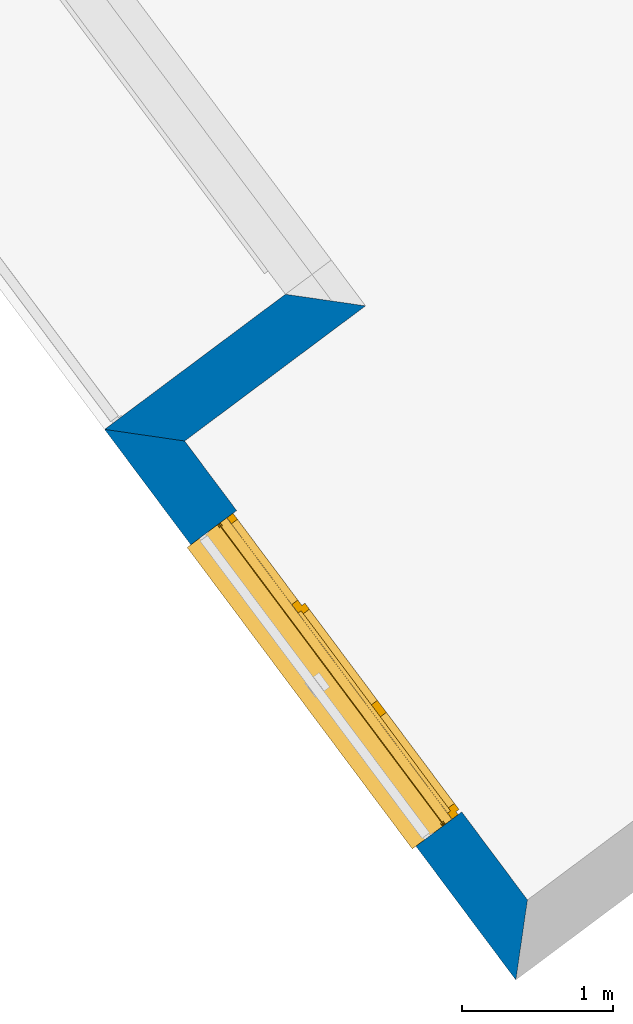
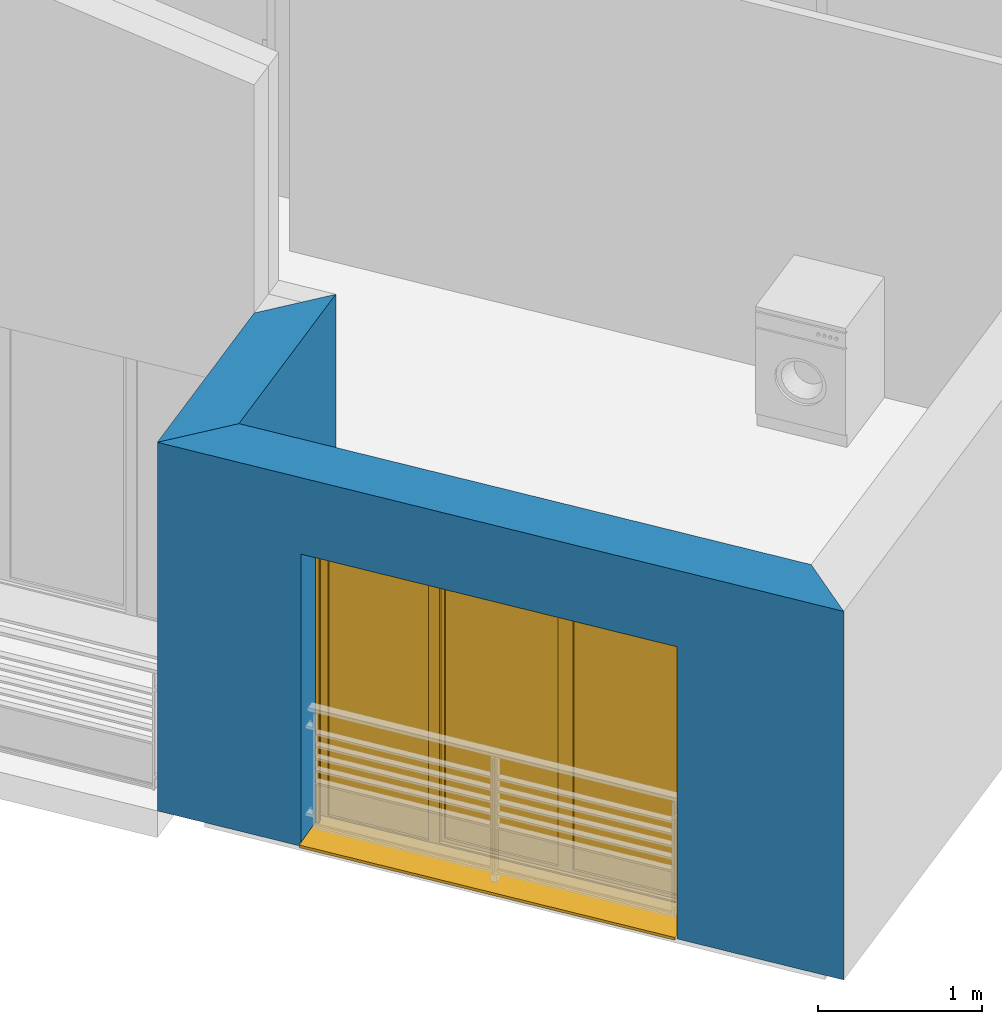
# One storey, part 3 of 121: 2 walls, 1 window, 1 opening.
"""IFC2X3 building model written with IfcOpenShell, lengths in metres."""

from ifc_helpers import new_model, entity, si_unit, converted_unit, derived_unit, money_unit, direction, frame, origin_with_axes, place, context, subcontext, project, spatial, polyline, outline, extrude, open_shell, faceted_brep, surface_model, source, transform, mapped, material, layer, layer_set, layer_usage, type_object, element, fill, save


model = new_model("IFC2X3")

# Units and contexts
model_context = context("Model", 3, precision=1e-05, world=origin_with_axes(), true_north=direction((0.0, 1.0)))
body_context = subcontext(model_context, "Body", "Model", "MODEL_VIEW")
ifc_project = project(units=[si_unit("LENGTHUNIT", "METRE"), si_unit("AREAUNIT", "SQUARE_METRE"), si_unit("VOLUMEUNIT", "CUBIC_METRE"), converted_unit("PLANEANGLEUNIT", "DEGREE", entity("IfcPlaneAngleMeasure", 0.0174532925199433), si_unit("PLANEANGLEUNIT", "RADIAN"), dimensions=[0, 0, 0, 0, 0, 0, 0]), money_unit("CHF"), converted_unit("TIMEUNIT", "Year", entity("IfcTimeMeasure", 31557600.0), si_unit("TIMEUNIT", "SECOND"), dimensions=[0, 0, 1, 0, 0, 0, 0]), si_unit("MASSUNIT", "GRAM", prefix="KILO"), si_unit("THERMODYNAMICTEMPERATUREUNIT", "DEGREE_CELSIUS"), si_unit("LUMINOUSINTENSITYUNIT", "LUMEN"), si_unit("ENERGYUNIT", "JOULE", prefix="MEGA"), derived_unit("THERMALCONDUCTANCEUNIT", [(si_unit("POWERUNIT", "WATT"), 1), (si_unit("LENGTHUNIT", "METRE"), -1), (si_unit("THERMODYNAMICTEMPERATUREUNIT", "KELVIN"), -1)]), derived_unit("SPECIFICHEATCAPACITYUNIT", [(si_unit("ENERGYUNIT", "JOULE"), 1), (si_unit("MASSUNIT", "GRAM", prefix="KILO"), -1), (si_unit("THERMODYNAMICTEMPERATUREUNIT", "KELVIN"), -1)]), derived_unit("MASSDENSITYUNIT", [(si_unit("MASSUNIT", "GRAM", prefix="KILO"), 1), (si_unit("VOLUMEUNIT", "CUBIC_METRE"), -1)])], contexts=[model_context])

# Site, building, storey
site_placement = place(None, origin_with_axes())
site = spatial("IfcSite", under=ifc_project, at=site_placement, Name="Site", CompositionType="ELEMENT")
building_placement = place(site_placement, origin_with_axes())
building = spatial("IfcBuilding", under=site, at=building_placement, Name="Bâtiment", CompositionType="ELEMENT")
storey_placement = place(building_placement, frame((0.0, 0.0, 2.75), z_axis=(0.0, 0.0, 1.0), x_axis=(1.0, 0.0, 0.0)))
storey = spatial("IfcBuildingStorey", under=building, at=storey_placement, Name="Etage 1", CompositionType="ELEMENT", Elevation=2.75)

# Wall, opening, window
ifc_material_1 = material(Name="Parpaing 312445824")
ifc_layer_1 = layer(ifc_material_1, 0.22, ventilated="UNKNOWN")
ifc_material_2 = material(Name="Isolant styromousse 301821074")
ifc_layer_2 = layer(ifc_material_2, 0.16, ventilated="UNKNOWN")
ifc_layer_set = layer_set([ifc_layer_1, ifc_layer_2], Name="isol int 22+16 0836643197")
ifc_layer_usage_1 = layer_usage(ifc_layer_set, "AXIS2", "POSITIVE", 0.0)
wall_type = type_object("IfcWallType", Name="isol int 22+16 0836643197 380", PredefinedType="NOTDEFINED")
wall_1_placement = place(storey_placement, frame((9532.907405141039, -1085.373837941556, 57.7), z_axis=(0.0, 0.0, 1.0), x_axis=(0.5984464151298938, -0.8011628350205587, 0.0)))
wall_1 = element("IfcWallStandardCase", 1, at=wall_1_placement, inside=storey, type_object=wall_type, material=ifc_layer_usage_1, Name="Mur-115", context=body_context, shape_type="SweptSolid", body=[
    extrude(outline(polyline([(0.0, 0.0), (4.566222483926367, 0.0), (4.186222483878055, 0.3799999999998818), (0.3800000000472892, 0.3799999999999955), (0.0, 0.0)])), origin_with_axes(), (0.0, 0.0, 1.0), 2.75),
])
opening_placement = place(wall_1_placement, frame((2.206747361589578, 0.0, 0.0), z_axis=(0.0, 0.0, 1.0), x_axis=(1.0, 0.0, 0.0)))
opening = element("IfcOpeningElement", 2, at=opening_placement, cuts=wall_1, Name="Fen-050", context=body_context, shape_type="Brep", body=[
    faceted_brep([(-1.25, 0.4800000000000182, 2.18), (1.25, 0.4800000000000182, 2.18), (1.25, 2.570289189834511, 2.18), (-1.25, 2.570289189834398, 2.18), (-1.25, 0.4800000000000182, 2.380000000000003), (1.25, 0.4800000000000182, 2.380000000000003), (1.25, 0.2999999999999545, 2.18), (1.25, 0.2999999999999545, 0.0), (1.25, 2.570289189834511, 0.0), (-1.25, 2.570289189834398, 0.0), (-1.25, 0.2999999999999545, 2.18), (-1.25, 0.2999999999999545, 0.0), (-1.25, 0.2200000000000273, 2.18), (-1.25, 0.2200000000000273, 2.380000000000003), (1.25, 0.2200000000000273, 2.380000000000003), (1.25, 0.2200000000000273, 2.18), (1.25, -2.190289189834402, 2.18), (1.25, -2.190289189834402, 0.0), (-1.250000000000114, -2.190289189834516, 0.0), (-1.250000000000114, -2.190289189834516, 2.18)], [[[0, 1, 2, 3]], [[1, 0, 4, 5]], [[1, 6, 7, 8, 2]], [[2, 8, 9, 3]], [[10, 0, 3, 9, 11]], [[0, 10, 12, 13, 4]], [[4, 13, 14, 5]], [[6, 1, 5, 14, 15]], [[6, 15, 16, 17, 7]], [[7, 11, 9, 8]], [[12, 10, 11, 18, 19]], [[12, 15, 14, 13]], [[15, 12, 19, 16]], [[19, 18, 17, 16]], [[11, 7, 17, 18]]]),
])
window_style = type_object("IfcWindowStyle", Name="Fenêtre variable 27", ConstructionType="NOTDEFINED", OperationType="TRIPLE_PANEL_VERTICAL", ParameterTakesPrecedence=False, Sizeable=False)
shared_shape = source(origin_with_axes(), body_context, "Body", "SurfaceModel", [
    surface_model("IfcShellBasedSurfaceModel", [(1.25, -0.05100000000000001, 0.05), (-1.25, -0.05100000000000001, 0.05000000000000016), (-1.25, -0.05100000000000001, 0.04000000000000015), (1.25, -0.05100000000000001, 0.04), (-1.25, -0.3799999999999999, 0.02900000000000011), (1.25, -0.3799999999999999, 0.02899999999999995), (-1.25, -0.3799999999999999, 0.009000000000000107), (1.25, -0.3799999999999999, 0.008999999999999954), (-1.25, -0.3699999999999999, 0.01900000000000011), (1.25, -0.3699999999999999, 0.01899999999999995)], [open_shell([[[0, 1, 2, 3]], [[3, 2, 4, 5]], [[5, 4, 6, 7]], [[7, 6, 8, 9]]])]),
    faceted_brep([(1.25, -0.1300000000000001, 2.38), (1.25, 0.1299999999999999, 2.38), (1.247, 0.1299999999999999, 2.38), (1.247, -0.1300000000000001, 2.38), (1.25, -0.1300000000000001, 2.18), (1.25, 0.1299999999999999, 2.18), (1.247, 0.1299999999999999, 2.18), (1.247, -0.1300000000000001, 2.18)], [[[0, 1, 2, 3]], [[0, 4, 5, 1]], [[1, 5, 6, 2]], [[3, 2, 6, 7]], [[4, 0, 3, 7]], [[5, 4, 7, 6]]]),
    faceted_brep([(-1.247, -0.1299999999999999, 2.38), (-1.247, 0.1300000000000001, 2.38), (-1.25, 0.1300000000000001, 2.38), (-1.25, -0.1299999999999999, 2.38), (-1.247, -0.1299999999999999, 2.18), (-1.247, 0.1300000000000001, 2.18), (-1.25, 0.1300000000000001, 2.18), (-1.25, -0.1299999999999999, 2.18)], [[[0, 1, 2, 3]], [[0, 4, 5, 1]], [[1, 5, 6, 2]], [[3, 2, 6, 7]], [[4, 0, 3, 7]], [[5, 4, 7, 6]]]),
    faceted_brep([(1.247, -0.1300000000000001, 2.18), (1.247, -0.1300000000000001, 2.38), (-1.247, -0.1299999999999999, 2.38), (-1.247, -0.1299999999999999, 2.18), (1.247, -0.1270000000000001, 2.18), (1.247, -0.1270000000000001, 2.377), (1.247, 0.1269999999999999, 2.377), (1.247, 0.1269999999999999, 2.183), (1.247, -0.1080000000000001, 2.183), (1.247, -0.1080000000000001, 2.18), (1.247, 0.1299999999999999, 2.18), (1.247, 0.1299999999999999, 2.38), (-1.247, 0.1300000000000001, 2.38), (-1.247, 0.1300000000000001, 2.18), (-1.247, -0.1079999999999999, 2.18), (-1.247, -0.1079999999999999, 2.183), (-1.247, 0.1270000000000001, 2.183), (-1.247, 0.1270000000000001, 2.377), (-1.247, -0.1269999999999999, 2.377), (-1.247, -0.1269999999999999, 2.18)], [[[0, 1, 2, 3]], [[0, 4, 5, 6, 7, 8, 9, 10, 11, 1]], [[1, 11, 12, 2]], [[3, 2, 12, 13, 14, 15, 16, 17, 18, 19]], [[4, 0, 3, 19]], [[5, 4, 19, 18]], [[6, 5, 18, 17]], [[7, 6, 17, 16]], [[8, 7, 16, 15]], [[9, 8, 15, 14]], [[10, 9, 14, 13]], [[11, 10, 13, 12]]]),
    faceted_brep([(1.244, -0.08075423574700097, 2.265760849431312), (1.244, -0.07705479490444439, 2.251954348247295), (1.244, -0.07101408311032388, 2.239), (1.244, -0.06281564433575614, 2.227291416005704), (1.244, -0.05270858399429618, 2.217184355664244), (1.244, -0.04099999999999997, 2.208985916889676), (1.244, -0.02804565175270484, 2.202945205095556), (1.244, -0.01423915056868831, 2.199245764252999), (1.244, 0.0, 2.198), (1.244, 0.01423915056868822, 2.199245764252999), (1.244, 0.02804565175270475, 2.202945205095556), (1.244, 0.0409999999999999, 2.208985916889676), (1.244, 0.05270858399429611, 2.217184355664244), (1.244, 0.06281564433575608, 2.227291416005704), (1.244, 0.07101408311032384, 2.239), (1.244, 0.07705479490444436, 2.251954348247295), (1.244, 0.08075423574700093, 2.265760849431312), (1.244, 0.08199999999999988, 2.28), (1.244, 0.08075423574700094, 2.294239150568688), (1.244, 0.07705479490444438, 2.308045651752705), (1.244, 0.07101408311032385, 2.321), (1.244, 0.0628156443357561, 2.332708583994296), (1.244, 0.05270858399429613, 2.342815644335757), (1.244, 0.04099999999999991, 2.351014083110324), (1.244, 0.02804565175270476, 2.357054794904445), (1.244, 0.01423915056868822, 2.360754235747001), (1.244, 0.0, 2.362), (1.244, -0.01423915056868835, 2.360754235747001), (1.244, -0.0280456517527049, 2.357054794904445), (1.244, -0.04100000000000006, 2.351014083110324), (1.244, -0.05270858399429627, 2.342815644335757), (1.244, -0.06281564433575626, 2.332708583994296), (1.244, -0.07101408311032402, 2.321), (1.244, -0.07705479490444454, 2.308045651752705), (1.244, -0.08075423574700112, 2.294239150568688), (1.244, -0.08200000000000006, 2.28), (-1.244, -0.08075423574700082, 2.265760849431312), (-1.244, -0.07705479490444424, 2.251954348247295), (-1.244, -0.07101408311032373, 2.239), (-1.244, -0.06281564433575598, 2.227291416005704), (-1.244, -0.05270858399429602, 2.217184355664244), (-1.244, -0.04099999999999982, 2.208985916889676), (-1.244, -0.02804565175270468, 2.202945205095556), (-1.244, -0.01423915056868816, 2.199245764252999), (-1.244, 0.0, 2.198), (-1.244, 0.01423915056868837, 2.199245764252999), (-1.244, 0.02804565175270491, 2.202945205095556), (-1.244, 0.04100000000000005, 2.208985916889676), (-1.244, 0.05270858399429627, 2.217184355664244), (-1.244, 0.06281564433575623, 2.227291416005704), (-1.244, 0.07101408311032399, 2.239), (-1.244, 0.07705479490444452, 2.251954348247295), (-1.244, 0.08075423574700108, 2.265760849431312), (-1.244, 0.08200000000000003, 2.28), (-1.244, 0.0807542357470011, 2.294239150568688), (-1.244, 0.07705479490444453, 2.308045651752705), (-1.244, 0.071014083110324, 2.321), (-1.244, 0.06281564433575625, 2.332708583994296), (-1.244, 0.05270858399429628, 2.342815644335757), (-1.244, 0.04100000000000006, 2.351014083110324), (-1.244, 0.02804565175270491, 2.357054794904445), (-1.244, 0.01423915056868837, 2.360754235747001), (-1.244, 0.0, 2.362), (-1.244, -0.0142391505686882, 2.360754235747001), (-1.244, -0.02804565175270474, 2.357054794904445), (-1.244, -0.0409999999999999, 2.351014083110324), (-1.244, -0.05270858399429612, 2.342815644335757), (-1.244, -0.06281564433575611, 2.332708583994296), (-1.244, -0.07101408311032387, 2.321), (-1.244, -0.07705479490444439, 2.308045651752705), (-1.244, -0.08075423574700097, 2.294239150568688), (-1.244, -0.0819999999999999, 2.28)], [[[0, 1, 2, 3, 4, 5, 6, 7, 8, 9, 10, 11, 12, 13, 14, 15, 16, 17, 18, 19, 20, 21, 22, 23, 24, 25, 26, 27, 28, 29, 30, 31, 32, 33, 34, 35]], [[1, 0, 36, 37]], [[2, 1, 37, 38]], [[3, 2, 38, 39]], [[4, 3, 39, 40]], [[5, 4, 40, 41]], [[6, 5, 41, 42]], [[7, 6, 42, 43]], [[8, 7, 43, 44]], [[9, 8, 44, 45]], [[10, 9, 45, 46]], [[11, 10, 46, 47]], [[12, 11, 47, 48]], [[13, 12, 48, 49]], [[14, 13, 49, 50]], [[15, 14, 50, 51]], [[16, 15, 51, 52]], [[17, 16, 52, 53]], [[18, 17, 53, 54]], [[19, 18, 54, 55]], [[20, 19, 55, 56]], [[21, 20, 56, 57]], [[22, 21, 57, 58]], [[23, 22, 58, 59]], [[24, 23, 59, 60]], [[25, 24, 60, 61]], [[26, 25, 61, 62]], [[27, 26, 62, 63]], [[28, 27, 63, 64]], [[29, 28, 64, 65]], [[30, 29, 65, 66]], [[31, 30, 66, 67]], [[32, 31, 67, 68]], [[33, 32, 68, 69]], [[34, 33, 69, 70]], [[35, 34, 70, 71]], [[0, 35, 71, 36]], [[36, 71, 70, 69, 68, 67, 66, 65, 64, 63, 62, 61, 60, 59, 58, 57, 56, 55, 54, 53, 52, 51, 50, 49, 48, 47, 46, 45, 44, 43, 42, 41, 40, 39, 38, 37]]]),
    faceted_brep([(-1.25, -0.105, 0.03), (-1.25, -0.13, 0.03), (-1.25, -0.1299999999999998, 2.18), (-1.25, -0.1049999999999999, 2.18), (-1.225, -0.105, 0.03), (-1.225, -0.108, 0.03), (-1.247, -0.108, 0.03), (-1.247, -0.127, 0.03), (-1.225, -0.127, 0.03), (-1.225, -0.13, 0.03), (-1.225, -0.1299999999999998, 2.18), (-1.225, -0.1269999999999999, 2.18), (-1.247, -0.1269999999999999, 2.18), (-1.247, -0.1079999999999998, 2.18), (-1.225, -0.1079999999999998, 2.18), (-1.225, -0.1049999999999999, 2.18)], [[[0, 1, 2, 3]], [[0, 4, 5, 6, 7, 8, 9, 1]], [[1, 9, 10, 2]], [[3, 2, 10, 11, 12, 13, 14, 15]], [[4, 0, 3, 15]], [[5, 4, 15, 14]], [[6, 5, 14, 13]], [[7, 6, 13, 12]], [[8, 7, 12, 11]], [[9, 8, 11, 10]]]),
    faceted_brep([(1.25, -0.105, 0.03), (1.25, -0.1049999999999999, 2.18), (1.25, -0.1299999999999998, 2.18), (1.25, -0.13, 0.03), (1.225, -0.105, 0.03), (1.225, -0.1049999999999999, 2.18), (1.225, -0.1079999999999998, 2.18), (1.247, -0.1079999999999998, 2.18), (1.247, -0.1269999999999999, 2.18), (1.225, -0.1269999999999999, 2.18), (1.225, -0.1299999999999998, 2.18), (1.225, -0.13, 0.03), (1.225, -0.127, 0.03), (1.247, -0.127, 0.03), (1.247, -0.108, 0.03), (1.225, -0.108, 0.03)], [[[0, 1, 2, 3]], [[4, 5, 1, 0]], [[1, 5, 6, 7, 8, 9, 10, 2]], [[3, 2, 10, 11]], [[0, 3, 11, 12, 13, 14, 15, 4]], [[15, 6, 5, 4]], [[14, 7, 6, 15]], [[13, 8, 7, 14]], [[12, 9, 8, 13]], [[11, 10, 9, 12]]]),
    surface_model("IfcShellBasedSurfaceModel", [(1.247, -0.115, 2.28), (-1.247, -0.1149999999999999, 2.28), (-1.247, -0.1199999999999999, 2.28), (1.247, -0.1200000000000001, 2.28), (1.247, -0.115, 2.28), (1.247, -0.1200000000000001, 2.28), (-1.247, -0.1199999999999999, 2.28), (-1.247, -0.1149999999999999, 2.28)], [open_shell([[[0, 1, 2, 3]], [[4, 5, 6, 7]]])]),
    faceted_brep([(1.247, -0.115, 2.28), (1.247, -0.1166666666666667, 2.263333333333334), (-1.247, -0.1166666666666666, 2.263333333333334), (-1.247, -0.1149999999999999, 2.28), (1.247, -0.1200000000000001, 2.28), (1.247, -0.1216666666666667, 2.263333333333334), (1.247, -0.1216666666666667, 2.246666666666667), (1.247, -0.1200000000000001, 2.23), (1.247, -0.115, 2.23), (1.247, -0.1166666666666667, 2.246666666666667), (-1.247, -0.1166666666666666, 2.246666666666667), (-1.247, -0.1149999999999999, 2.23), (-1.247, -0.1199999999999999, 2.23), (-1.247, -0.1216666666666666, 2.246666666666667), (-1.247, -0.1216666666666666, 2.263333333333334), (-1.247, -0.1199999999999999, 2.28)], [[[0, 1, 2, 3]], [[0, 4, 5, 6, 7, 8, 9, 1]], [[1, 9, 10, 2]], [[3, 2, 10, 11, 12, 13, 14, 15]], [[4, 0, 3, 15]], [[5, 4, 15, 14]], [[6, 5, 14, 13]], [[7, 6, 13, 12]], [[8, 7, 12, 11]], [[9, 8, 11, 10]]]),
    faceted_brep([(1.247, -0.115, 2.23), (1.247, -0.1166666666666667, 2.213333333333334), (-1.247, -0.1166666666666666, 2.213333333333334), (-1.247, -0.1149999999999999, 2.23), (1.247, -0.1200000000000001, 2.23), (1.247, -0.1216666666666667, 2.213333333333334), (1.247, -0.1216666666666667, 2.196666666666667), (1.247, -0.1200000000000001, 2.180000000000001), (1.247, -0.115, 2.180000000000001), (1.247, -0.1166666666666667, 2.196666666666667), (-1.247, -0.1166666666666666, 2.196666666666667), (-1.247, -0.1149999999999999, 2.180000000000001), (-1.247, -0.1199999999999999, 2.180000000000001), (-1.247, -0.1216666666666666, 2.196666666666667), (-1.247, -0.1216666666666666, 2.213333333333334), (-1.247, -0.1199999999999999, 2.23)], [[[0, 1, 2, 3]], [[0, 4, 5, 6, 7, 8, 9, 1]], [[1, 9, 10, 2]], [[3, 2, 10, 11, 12, 13, 14, 15]], [[4, 0, 3, 15]], [[5, 4, 15, 14]], [[6, 5, 14, 13]], [[7, 6, 13, 12]], [[8, 7, 12, 11]], [[9, 8, 11, 10]]]),
    faceted_brep([(1.225, 0.0, 2.13), (1.225, -0.02500000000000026, 2.13), (1.2, -0.02500000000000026, 2.13), (1.2, -0.05000000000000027, 2.13), (1.25, -0.05000000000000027, 2.13), (1.25, 0.0, 2.13), (1.225, 0.0, 0.05000000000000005), (1.225, -0.02500000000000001, 0.05000000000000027), (1.2, -0.02500000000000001, 0.05000000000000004), (1.2, -0.05000000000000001, 0.05000000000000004), (1.25, -0.05000000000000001, 0.05000000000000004), (1.25, 0.0, 0.05000000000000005)], [[[0, 1, 2, 3, 4, 5]], [[1, 0, 6, 7]], [[8, 2, 1, 7]], [[2, 8, 9, 3]], [[4, 3, 9, 10]], [[5, 4, 10, 11]], [[6, 0, 5, 11]], [[7, 6, 11, 10, 9, 8]]]),
    faceted_brep([(-0.4600000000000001, -0.02500000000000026, 2.13), (-0.4850000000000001, -0.02500000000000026, 2.13), (-0.4850000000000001, 0.0, 2.13), (-0.5300000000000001, 0.0, 2.13), (-0.5300000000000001, -0.05000000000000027, 2.13), (-0.4600000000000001, -0.05000000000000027, 2.13), (-0.4600000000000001, -0.02500000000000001, 0.05000000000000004), (-0.4850000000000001, -0.02500000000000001, 0.05000000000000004), (-0.4850000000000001, 0.0, 0.05000000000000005), (-0.5300000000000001, 0.0, 0.05000000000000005), (-0.5300000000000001, -0.05000000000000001, 0.05000000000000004), (-0.4600000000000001, -0.05000000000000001, 0.05000000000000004)], [[[0, 1, 2, 3, 4, 5]], [[1, 0, 6, 7]], [[8, 2, 1, 7]], [[2, 8, 9, 3]], [[9, 10, 4, 3]], [[10, 11, 5, 4]], [[6, 0, 5, 11]], [[7, 6, 11, 10, 9, 8]]]),
    faceted_brep([(-0.4600000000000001, -0.02500000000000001, 0.05000000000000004), (-0.4850000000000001, -0.02500000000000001, 0.05000000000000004), (-0.4850000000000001, 0.0, 0.05000000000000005), (-0.5300000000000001, 0.0, 0.05000000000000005), (-0.5300000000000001, -0.05000000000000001, 0.05000000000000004), (-0.4600000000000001, -0.05000000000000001, 0.05000000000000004), (1.2, -0.02500000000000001, 0.05000000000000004), (1.225, -0.02500000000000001, 0.05000000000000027), (1.225, -0.025, 0.02499999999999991), (-0.4850000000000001, -0.025, 0.02499999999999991), (-0.4850000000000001, 0.0, 0.02499999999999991), (1.225, 0.0, 0.02499999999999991), (1.225, 0.0, 0.05000000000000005), (1.25, 0.0, 0.05000000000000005), (1.25, 0.0, 0.0), (-1.25, 0.0, 0.0), (-1.25, 0.0, 0.05000000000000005), (-1.2, 0.0, 0.05000000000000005), (-1.2, -0.05000000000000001, 0.05000000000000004), (1.25, -0.05000000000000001, 0.05000000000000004), (1.2, -0.05000000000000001, 0.05000000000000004), (-1.25, -0.05000000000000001, 0.05000000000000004), (-1.25, -0.05, 0.0), (1.25, -0.05, 0.0)], [[[0, 1, 2, 3, 4, 5]], [[1, 0, 6, 7, 8, 9]], [[10, 2, 1, 9]], [[11, 12, 13, 14, 15, 16, 17, 3, 2, 10]], [[17, 18, 4, 3]], [[19, 20, 5, 4, 18, 21, 22, 23]], [[6, 0, 5, 20]], [[7, 6, 20, 19, 13, 12]], [[7, 12, 11, 8]], [[11, 10, 9, 8]], [[13, 19, 23, 14]], [[14, 23, 22, 15]], [[15, 22, 21, 16]], [[16, 21, 18, 17]]]),
    faceted_brep([(1.225, 0.0, 2.13), (1.225, 0.0, 2.155), (-0.4850000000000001, 0.0, 2.155), (-0.4850000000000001, 0.0, 2.13), (-0.5300000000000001, 0.0, 2.13), (-1.2, 0.0, 2.13), (-1.25, 0.0, 2.13), (-1.25, 0.0, 2.18), (1.25, 0.0, 2.18), (1.25, 0.0, 2.13), (1.225, -0.02500000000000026, 2.13), (1.225, -0.02500000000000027, 2.155), (-0.4850000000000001, -0.02500000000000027, 2.155), (-0.4850000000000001, -0.02500000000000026, 2.13), (-0.4600000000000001, -0.02500000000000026, 2.13), (-0.4600000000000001, -0.05000000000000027, 2.13), (-0.5300000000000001, -0.05000000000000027, 2.13), (-1.2, -0.05000000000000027, 2.13), (-1.25, -0.05000000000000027, 2.13), (-1.25, -0.05000000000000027, 2.18), (1.25, -0.05000000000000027, 2.18), (1.25, -0.05000000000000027, 2.13), (1.2, -0.05000000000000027, 2.13), (1.2, -0.02500000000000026, 2.13)], [[[0, 1, 2, 3, 4, 5, 6, 7, 8, 9]], [[1, 0, 10, 11]], [[2, 1, 11, 12]], [[3, 2, 12, 13]], [[13, 14, 15, 16, 4, 3]], [[4, 16, 17, 5]], [[5, 17, 18, 6]], [[6, 18, 19, 7]], [[7, 19, 20, 8]], [[8, 20, 21, 9]], [[10, 0, 9, 21, 22, 23]], [[14, 13, 12, 11, 10, 23]], [[14, 23, 22, 15]], [[16, 15, 22, 21, 20, 19, 18, 17]]]),
    faceted_brep([(-1.2, -0.05000000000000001, 0.05), (-1.25, -0.05000000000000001, 0.05), (-1.25, 0.0, 0.05000000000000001), (-1.2, 0.0, 0.05000000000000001), (-1.2, -0.05000000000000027, 2.13), (-1.25, -0.05000000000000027, 2.13), (-1.25, 0.0, 2.13), (-1.2, 0.0, 2.13)], [[[0, 1, 2, 3]], [[0, 4, 5, 1]], [[1, 5, 6, 2]], [[3, 2, 6, 7]], [[4, 0, 3, 7]], [[5, 4, 7, 6]]]),
    faceted_brep([(0.3199999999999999, -0.02500000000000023, 2.105), (0.3699999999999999, -0.02500000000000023, 2.105), (0.3699999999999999, 0.02499999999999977, 2.105), (0.3199999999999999, 0.02499999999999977, 2.105), (0.3199999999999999, -0.02499999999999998, 0.07500000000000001), (0.3699999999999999, -0.02499999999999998, 0.07500000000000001), (0.3699999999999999, 0.02500000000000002, 0.07500000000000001), (0.3199999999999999, 0.02500000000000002, 0.07500000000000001)], [[[0, 1, 2, 3]], [[0, 4, 5, 1]], [[1, 5, 6, 2]], [[3, 2, 6, 7]], [[4, 0, 3, 7]], [[5, 4, 7, 6]]]),
    faceted_brep([(-0.4350000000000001, -0.02500000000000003, 0.07500000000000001), (-0.4850000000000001, -0.02500000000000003, 0.07500000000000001), (-0.4850000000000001, 0.02499999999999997, 0.07500000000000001), (-0.4350000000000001, 0.02499999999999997, 0.07500000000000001), (-0.4350000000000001, -0.02500000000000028, 2.105), (-0.4850000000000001, -0.02500000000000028, 2.105), (-0.4850000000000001, 0.02499999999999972, 2.105), (-0.4350000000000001, 0.02499999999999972, 2.105)], [[[0, 1, 2, 3]], [[0, 4, 5, 1]], [[1, 5, 6, 2]], [[3, 2, 6, 7]], [[4, 0, 3, 7]], [[5, 4, 7, 6]]]),
    faceted_brep([(-0.4850000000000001, -0.02500000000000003, 0.025), (-0.4850000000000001, -0.02500000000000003, 0.07500000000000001), (-0.4850000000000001, 0.02499999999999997, 0.07500000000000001), (-0.4850000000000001, 0.02499999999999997, 0.02500000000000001), (0.3699999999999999, -0.02499999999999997, 0.025), (0.3699999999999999, -0.02499999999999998, 0.07500000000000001), (0.3199999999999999, -0.02499999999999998, 0.07500000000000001), (-0.4350000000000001, -0.02500000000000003, 0.07500000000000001), (-0.4350000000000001, 0.02499999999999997, 0.07500000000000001), (0.3199999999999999, 0.02500000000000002, 0.07500000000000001), (0.3699999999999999, 0.02500000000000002, 0.07500000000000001), (0.3699999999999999, 0.02500000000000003, 0.02500000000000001)], [[[0, 1, 2, 3]], [[0, 4, 5, 6, 7, 1]], [[1, 7, 8, 2]], [[3, 2, 8, 9, 10, 11]], [[4, 0, 3, 11]], [[5, 4, 11, 10]], [[6, 5, 10, 9]], [[7, 6, 9, 8]]]),
    faceted_brep([(0.3699999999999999, -0.02500000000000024, 2.155), (0.3699999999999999, -0.02500000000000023, 2.105), (0.3699999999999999, 0.02499999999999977, 2.105), (0.3699999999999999, 0.02499999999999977, 2.155), (-0.4850000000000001, -0.02500000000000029, 2.155), (-0.4850000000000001, -0.02500000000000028, 2.105), (-0.4350000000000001, -0.02500000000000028, 2.105), (0.3199999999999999, -0.02500000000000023, 2.105), (0.3199999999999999, 0.02499999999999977, 2.105), (-0.4350000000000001, 0.02499999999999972, 2.105), (-0.4850000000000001, 0.02499999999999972, 2.105), (-0.4850000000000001, 0.02499999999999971, 2.155)], [[[0, 1, 2, 3]], [[0, 4, 5, 6, 7, 1]], [[1, 7, 8, 2]], [[3, 2, 8, 9, 10, 11]], [[4, 0, 3, 11]], [[5, 4, 11, 10]], [[6, 5, 10, 9]], [[7, 6, 9, 8]]]),
    surface_model("IfcShellBasedSurfaceModel", [(0.3199999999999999, -0.01000000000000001, 0.07500000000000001), (0.3199999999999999, -0.01000000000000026, 2.105), (-0.4350000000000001, -0.01000000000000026, 2.105), (-0.4350000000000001, -0.01000000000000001, 0.07500000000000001)], [open_shell([[[0, 1, 2, 3]]])]),
    surface_model("IfcShellBasedSurfaceModel", [(0.3199999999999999, 0.009999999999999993, 0.07500000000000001), (-0.4350000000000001, 0.009999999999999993, 0.07500000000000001), (-0.4350000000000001, 0.009999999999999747, 2.105), (0.3199999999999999, 0.009999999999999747, 2.105)], [open_shell([[[0, 1, 2, 3]]])]),
    faceted_brep([(1.175, -0.02500000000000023, 2.105), (1.225, -0.02500000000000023, 2.105), (1.225, 0.02499999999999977, 2.105), (1.175, 0.02499999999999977, 2.105), (1.175, -0.02499999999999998, 0.07500000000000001), (1.225, -0.02499999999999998, 0.07500000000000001), (1.225, 0.02500000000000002, 0.07500000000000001), (1.175, 0.02500000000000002, 0.07500000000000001)], [[[0, 1, 2, 3]], [[0, 4, 5, 1]], [[1, 5, 6, 2]], [[3, 2, 6, 7]], [[4, 0, 3, 7]], [[5, 4, 7, 6]]]),
    faceted_brep([(0.4199999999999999, -0.02500000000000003, 0.07500000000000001), (0.3699999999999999, -0.02500000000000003, 0.07500000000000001), (0.3699999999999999, 0.02499999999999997, 0.07500000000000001), (0.4199999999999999, 0.02499999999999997, 0.07500000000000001), (0.4199999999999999, -0.02500000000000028, 2.105), (0.3699999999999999, -0.02500000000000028, 2.105), (0.3699999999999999, 0.02499999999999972, 2.105), (0.4199999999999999, 0.02499999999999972, 2.105)], [[[0, 1, 2, 3]], [[0, 4, 5, 1]], [[1, 5, 6, 2]], [[3, 2, 6, 7]], [[4, 0, 3, 7]], [[5, 4, 7, 6]]]),
    faceted_brep([(0.3699999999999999, -0.02500000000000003, 0.025), (0.3699999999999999, -0.02500000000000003, 0.07500000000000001), (0.3699999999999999, 0.02499999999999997, 0.07500000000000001), (0.3699999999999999, 0.02499999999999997, 0.02500000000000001), (1.225, -0.02499999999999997, 0.025), (1.225, -0.02499999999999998, 0.07500000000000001), (1.175, -0.02499999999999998, 0.07500000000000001), (0.4199999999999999, -0.02500000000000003, 0.07500000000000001), (0.4199999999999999, 0.02499999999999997, 0.07500000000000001), (1.175, 0.02500000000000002, 0.07500000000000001), (1.225, 0.02500000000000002, 0.07500000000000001), (1.225, 0.02500000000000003, 0.02500000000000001)], [[[0, 1, 2, 3]], [[0, 4, 5, 6, 7, 1]], [[1, 7, 8, 2]], [[3, 2, 8, 9, 10, 11]], [[4, 0, 3, 11]], [[5, 4, 11, 10]], [[6, 5, 10, 9]], [[7, 6, 9, 8]]]),
    faceted_brep([(1.225, -0.02500000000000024, 2.155), (1.225, -0.02500000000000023, 2.105), (1.225, 0.02499999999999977, 2.105), (1.225, 0.02499999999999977, 2.155), (0.3699999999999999, -0.02500000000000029, 2.155), (0.3699999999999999, -0.02500000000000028, 2.105), (0.4199999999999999, -0.02500000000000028, 2.105), (1.175, -0.02500000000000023, 2.105), (1.175, 0.02499999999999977, 2.105), (0.4199999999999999, 0.02499999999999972, 2.105), (0.3699999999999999, 0.02499999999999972, 2.105), (0.3699999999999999, 0.02499999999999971, 2.155)], [[[0, 1, 2, 3]], [[0, 4, 5, 6, 7, 1]], [[1, 7, 8, 2]], [[3, 2, 8, 9, 10, 11]], [[4, 0, 3, 11]], [[5, 4, 11, 10]], [[6, 5, 10, 9]], [[7, 6, 9, 8]]]),
    surface_model("IfcShellBasedSurfaceModel", [(1.175, -0.01000000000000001, 0.07500000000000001), (1.175, -0.01000000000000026, 2.105), (0.4199999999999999, -0.01000000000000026, 2.105), (0.4199999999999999, -0.01000000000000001, 0.07500000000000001)], [open_shell([[[0, 1, 2, 3]]])]),
    surface_model("IfcShellBasedSurfaceModel", [(1.175, 0.009999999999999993, 0.07500000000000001), (0.4199999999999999, 0.009999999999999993, 0.07500000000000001), (0.4199999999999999, 0.009999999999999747, 2.105), (1.175, 0.009999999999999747, 2.105)], [open_shell([[[0, 1, 2, 3]]])]),
    surface_model("IfcShellBasedSurfaceModel", [(-0.5300000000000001, -0.035, 0.05), (-0.5300000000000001, -0.03500000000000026, 2.13), (-1.2, -0.03500000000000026, 2.13), (-1.2, -0.035, 0.05)], [open_shell([[[0, 1, 2, 3]]])]),
    surface_model("IfcShellBasedSurfaceModel", [(-0.5300000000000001, -0.015, 0.05), (-1.2, -0.015, 0.05), (-1.2, -0.01500000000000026, 2.13), (-0.5300000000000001, -0.01500000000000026, 2.13)], [open_shell([[[0, 1, 2, 3]]])]),
])
window_placement = place(opening_placement, frame((-1.249999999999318, 0.0, 0.0), z_axis=(0.0, 0.0, 1.0), x_axis=(1.0, 0.0, 0.0)))
window = element("IfcWindow", 3, at=window_placement, inside=storey, type_object=window_style, Name="Fen-050", OverallHeight=2.18, OverallWidth=2.5, context=body_context, shape_type="MappedRepresentation", body=[
    mapped(shared_shape, transform((1.25, 0.3500000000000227, 0.0))),
])
fill(opening, window)

# Wall
ifc_layer_usage_2 = layer_usage(ifc_layer_set, "AXIS2", "POSITIVE", 0.0)
wall_2_placement = place(storey_placement, frame((9534.109149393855, -1084.476168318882, 57.7), z_axis=(0.0, 0.0, 1.0), x_axis=(-0.8011628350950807, -0.5984464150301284, 0.0)))
element("IfcWallStandardCase", 4, at=wall_2_placement, inside=storey, type_object=wall_type, material=ifc_layer_usage_2, Name="Mur-115", context=body_context, shape_type="SweptSolid", body=[
    extrude(outline(polyline([(0.0, 0.0), (1.500000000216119, 0.0), (1.12000000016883, 0.3799999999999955), (-0.3800000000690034, 0.3800000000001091), (0.0, 0.0)])), origin_with_axes(), (0.0, 0.0, 1.0), 2.75),
])

save(model, "model.ifc")
